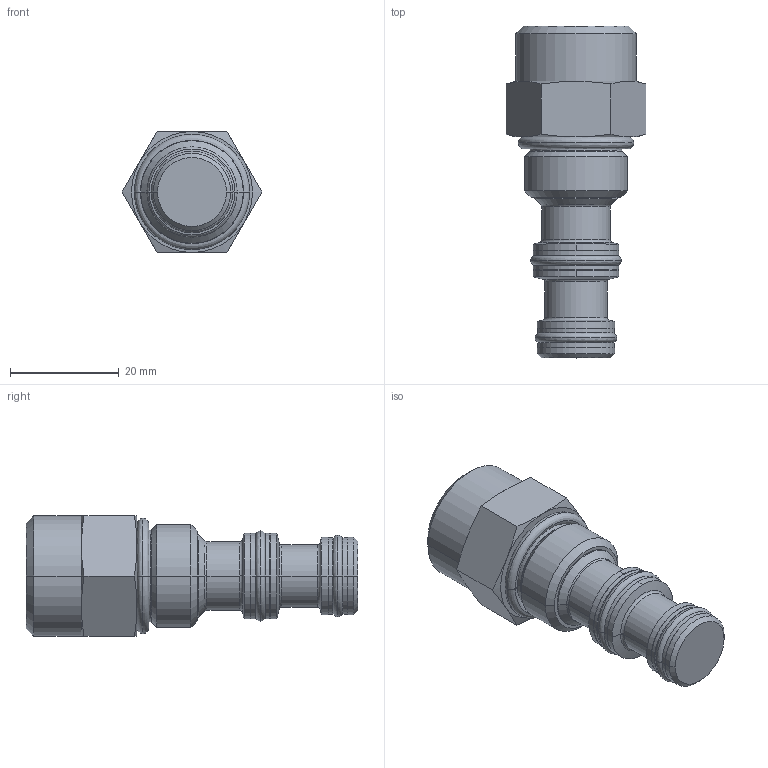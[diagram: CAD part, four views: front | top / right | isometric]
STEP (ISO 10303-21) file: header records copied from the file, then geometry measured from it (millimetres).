
FILE_DESCRIPTION((''),'2;1');
FILE_NAME('5281100_SW0001','2009-01-30T',('jcs'),(''),'PRO/ENGINEER BY PARAMETRIC TECHNOLOGY CORPORATION, 2008010','PRO/ENGINEER BY PARAMETRIC TECHNOLOGY CORPORATION, 2008010','');
FILE_SCHEMA(('CONFIG_CONTROL_DESIGN'));
Length unit declared in the file: inch
Products named in the file (1): 5281100_SW0001
Bounding box: 25.66 x 60.99 x 22.23 mm (x, y, z)
Volume: 15516.2 mm3; surface area: 5938.2 mm2
Topology: 4 solids, 4 shells, 130 faces, 266 edges, 152 vertices
Faces by surface type: cylinder 36, cone 24, torus 24, revolution 24, plane 22
Entity records: 3962 total; most frequent: CARTESIAN_POINT 1142, DIRECTION 624, ORIENTED_EDGE 532, AXIS2_PLACEMENT_3D 270, EDGE_CURVE 266, CIRCLE 164, VERTEX_POINT 152, EDGE_LOOP 144
